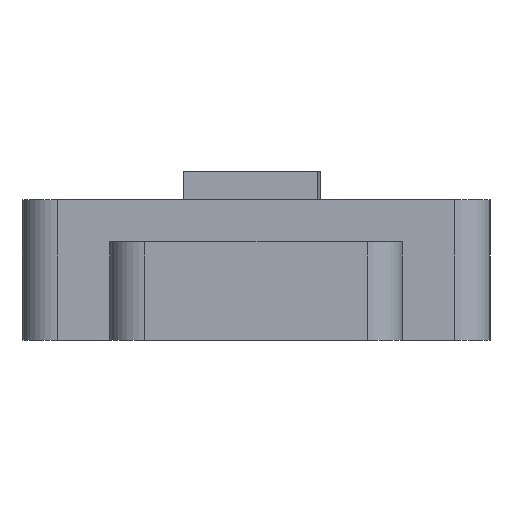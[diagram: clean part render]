
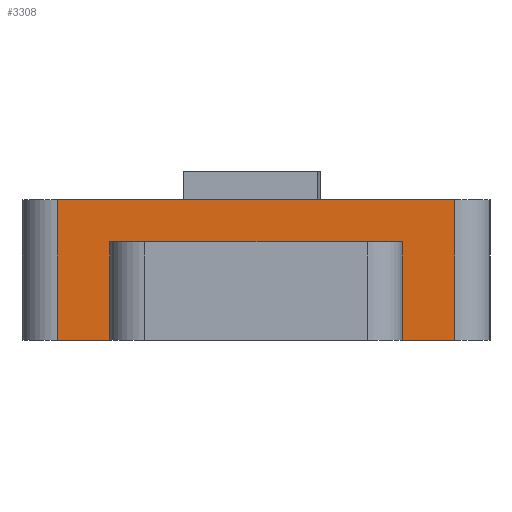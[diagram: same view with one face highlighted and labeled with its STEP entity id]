
A CAD part, left-side view. The second image highlights one B-rep face of the part: STEP entity #3308.
In plain terms, the highlighted planar face has unit normal (-1, 0, 0).
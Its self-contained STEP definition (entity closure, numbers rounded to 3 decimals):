
#62 = PLANE('',#63);
#63 = AXIS2_PLACEMENT_3D('',#64,#65,#66);
#64 = CARTESIAN_POINT('',(0.,0.,0.));
#65 = DIRECTION('',(0.,0.,1.));
#66 = DIRECTION('',(1.,0.,-0.));
#90 = CYLINDRICAL_SURFACE('',#91,0.6);
#91 = AXIS2_PLACEMENT_3D('',#92,#93,#94);
#92 = CARTESIAN_POINT('',(-14.25,-3.4,0.));
#93 = DIRECTION('',(0.,0.,1.));
#94 = DIRECTION('',(0.,-1.,0.));
#118 = PLANE('',#119);
#119 = AXIS2_PLACEMENT_3D('',#120,#121,#122);
#120 = CARTESIAN_POINT('',(0.,0.,2.4));
#121 = DIRECTION('',(0.,0.,1.));
#122 = DIRECTION('',(1.,0.,-0.));
#160 = VERTEX_POINT('',#161);
#161 = CARTESIAN_POINT('',(-14.85,-3.4,0.));
#463 = VERTEX_POINT('',#464);
#464 = CARTESIAN_POINT('',(-14.85,3.4,0.));
#479 = CYLINDRICAL_SURFACE('',#480,0.6);
#480 = AXIS2_PLACEMENT_3D('',#481,#482,#483);
#481 = CARTESIAN_POINT('',(-14.25,3.4,0.));
#482 = DIRECTION('',(0.,0.,1.));
#483 = DIRECTION('',(-0.,1.,0.));
#491 = EDGE_CURVE('',#463,#492,#494,.T.);
#492 = VERTEX_POINT('',#493);
#493 = CARTESIAN_POINT('',(-14.85,2.5,0.));
#494 = SURFACE_CURVE('',#495,(#499,#506),.PCURVE_S1.);
#495 = LINE('',#496,#497);
#496 = CARTESIAN_POINT('',(-14.85,4.,0.));
#497 = VECTOR('',#498,1.);
#498 = DIRECTION('',(0.,-1.,0.));
#499 = PCURVE('',#62,#500);
#500 = DEFINITIONAL_REPRESENTATION('',(#501),#505);
#501 = LINE('',#502,#503);
#502 = CARTESIAN_POINT('',(-14.85,4.));
#503 = VECTOR('',#504,1.);
#504 = DIRECTION('',(0.,-1.));
#505 = ( GEOMETRIC_REPRESENTATION_CONTEXT(2) 
PARAMETRIC_REPRESENTATION_CONTEXT() REPRESENTATION_CONTEXT('2D SPACE',''
  ) );
#506 = PCURVE('',#507,#512);
#507 = PLANE('',#508);
#508 = AXIS2_PLACEMENT_3D('',#509,#510,#511);
#509 = CARTESIAN_POINT('',(-14.85,4.,0.));
#510 = DIRECTION('',(1.,0.,-0.));
#511 = DIRECTION('',(0.,-1.,0.));
#512 = DEFINITIONAL_REPRESENTATION('',(#513),#517);
#513 = LINE('',#514,#515);
#514 = CARTESIAN_POINT('',(0.,0.));
#515 = VECTOR('',#516,1.);
#516 = DIRECTION('',(1.,0.));
#517 = ( GEOMETRIC_REPRESENTATION_CONTEXT(2) 
PARAMETRIC_REPRESENTATION_CONTEXT() REPRESENTATION_CONTEXT('2D SPACE',''
  ) );
#535 = PLANE('',#536);
#536 = AXIS2_PLACEMENT_3D('',#537,#538,#539);
#537 = CARTESIAN_POINT('',(-13.85,2.5,0.));
#538 = DIRECTION('',(0.,-1.,0.));
#539 = DIRECTION('',(-1.,0.,0.));
#638 = VERTEX_POINT('',#639);
#639 = CARTESIAN_POINT('',(-14.85,-2.5,0.));
#653 = PLANE('',#654);
#654 = AXIS2_PLACEMENT_3D('',#655,#656,#657);
#655 = CARTESIAN_POINT('',(-17.25,-2.5,0.));
#656 = DIRECTION('',(0.,1.,0.));
#657 = DIRECTION('',(1.,0.,0.));
#665 = EDGE_CURVE('',#638,#160,#666,.T.);
#666 = SURFACE_CURVE('',#667,(#671,#678),.PCURVE_S1.);
#667 = LINE('',#668,#669);
#668 = CARTESIAN_POINT('',(-14.85,4.,0.));
#669 = VECTOR('',#670,1.);
#670 = DIRECTION('',(0.,-1.,0.));
#671 = PCURVE('',#62,#672);
#672 = DEFINITIONAL_REPRESENTATION('',(#673),#677);
#673 = LINE('',#674,#675);
#674 = CARTESIAN_POINT('',(-14.85,4.));
#675 = VECTOR('',#676,1.);
#676 = DIRECTION('',(0.,-1.));
#677 = ( GEOMETRIC_REPRESENTATION_CONTEXT(2) 
PARAMETRIC_REPRESENTATION_CONTEXT() REPRESENTATION_CONTEXT('2D SPACE',''
  ) );
#678 = PCURVE('',#507,#679);
#679 = DEFINITIONAL_REPRESENTATION('',(#680),#684);
#680 = LINE('',#681,#682);
#681 = CARTESIAN_POINT('',(0.,0.));
#682 = VECTOR('',#683,1.);
#683 = DIRECTION('',(1.,0.));
#684 = ( GEOMETRIC_REPRESENTATION_CONTEXT(2) 
PARAMETRIC_REPRESENTATION_CONTEXT() REPRESENTATION_CONTEXT('2D SPACE',''
  ) );
#690 = EDGE_CURVE('',#160,#691,#693,.T.);
#691 = VERTEX_POINT('',#692);
#692 = CARTESIAN_POINT('',(-14.85,-3.4,2.4));
#693 = SURFACE_CURVE('',#694,(#698,#705),.PCURVE_S1.);
#694 = LINE('',#695,#696);
#695 = CARTESIAN_POINT('',(-14.85,-3.4,0.));
#696 = VECTOR('',#697,1.);
#697 = DIRECTION('',(0.,0.,1.));
#698 = PCURVE('',#90,#699);
#699 = DEFINITIONAL_REPRESENTATION('',(#700),#704);
#700 = LINE('',#701,#702);
#701 = CARTESIAN_POINT('',(-1.571,0.));
#702 = VECTOR('',#703,1.);
#703 = DIRECTION('',(-0.,1.));
#704 = ( GEOMETRIC_REPRESENTATION_CONTEXT(2) 
PARAMETRIC_REPRESENTATION_CONTEXT() REPRESENTATION_CONTEXT('2D SPACE',''
  ) );
#705 = PCURVE('',#507,#706);
#706 = DEFINITIONAL_REPRESENTATION('',(#707),#711);
#707 = LINE('',#708,#709);
#708 = CARTESIAN_POINT('',(7.4,0.));
#709 = VECTOR('',#710,1.);
#710 = DIRECTION('',(0.,-1.));
#711 = ( GEOMETRIC_REPRESENTATION_CONTEXT(2) 
PARAMETRIC_REPRESENTATION_CONTEXT() REPRESENTATION_CONTEXT('2D SPACE',''
  ) );
#866 = VERTEX_POINT('',#867);
#867 = CARTESIAN_POINT('',(-14.85,3.4,2.4));
#889 = EDGE_CURVE('',#866,#691,#890,.T.);
#890 = SURFACE_CURVE('',#891,(#895,#902),.PCURVE_S1.);
#891 = LINE('',#892,#893);
#892 = CARTESIAN_POINT('',(-14.85,4.,2.4));
#893 = VECTOR('',#894,1.);
#894 = DIRECTION('',(0.,-1.,0.));
#895 = PCURVE('',#118,#896);
#896 = DEFINITIONAL_REPRESENTATION('',(#897),#901);
#897 = LINE('',#898,#899);
#898 = CARTESIAN_POINT('',(-14.85,4.));
#899 = VECTOR('',#900,1.);
#900 = DIRECTION('',(0.,-1.));
#901 = ( GEOMETRIC_REPRESENTATION_CONTEXT(2) 
PARAMETRIC_REPRESENTATION_CONTEXT() REPRESENTATION_CONTEXT('2D SPACE',''
  ) );
#902 = PCURVE('',#507,#903);
#903 = DEFINITIONAL_REPRESENTATION('',(#904),#908);
#904 = LINE('',#905,#906);
#905 = CARTESIAN_POINT('',(0.,-2.4));
#906 = VECTOR('',#907,1.);
#907 = DIRECTION('',(1.,0.));
#908 = ( GEOMETRIC_REPRESENTATION_CONTEXT(2) 
PARAMETRIC_REPRESENTATION_CONTEXT() REPRESENTATION_CONTEXT('2D SPACE',''
  ) );
#3308 = ADVANCED_FACE('',(#3309),#507,.F.);
#3309 = FACE_BOUND('',#3310,.F.);
#3310 = EDGE_LOOP('',(#3311,#3312,#3333,#3334,#3335,#3336,#3357,#3383));
#3311 = ORIENTED_EDGE('',*,*,#491,.F.);
#3312 = ORIENTED_EDGE('',*,*,#3313,.T.);
#3313 = EDGE_CURVE('',#463,#866,#3314,.T.);
#3314 = SURFACE_CURVE('',#3315,(#3319,#3326),.PCURVE_S1.);
#3315 = LINE('',#3316,#3317);
#3316 = CARTESIAN_POINT('',(-14.85,3.4,0.));
#3317 = VECTOR('',#3318,1.);
#3318 = DIRECTION('',(0.,0.,1.));
#3319 = PCURVE('',#507,#3320);
#3320 = DEFINITIONAL_REPRESENTATION('',(#3321),#3325);
#3321 = LINE('',#3322,#3323);
#3322 = CARTESIAN_POINT('',(0.6,0.));
#3323 = VECTOR('',#3324,1.);
#3324 = DIRECTION('',(0.,-1.));
#3325 = ( GEOMETRIC_REPRESENTATION_CONTEXT(2) 
PARAMETRIC_REPRESENTATION_CONTEXT() REPRESENTATION_CONTEXT('2D SPACE',''
  ) );
#3326 = PCURVE('',#479,#3327);
#3327 = DEFINITIONAL_REPRESENTATION('',(#3328),#3332);
#3328 = LINE('',#3329,#3330);
#3329 = CARTESIAN_POINT('',(1.571,0.));
#3330 = VECTOR('',#3331,1.);
#3331 = DIRECTION('',(0.,1.));
#3332 = ( GEOMETRIC_REPRESENTATION_CONTEXT(2) 
PARAMETRIC_REPRESENTATION_CONTEXT() REPRESENTATION_CONTEXT('2D SPACE',''
  ) );
#3333 = ORIENTED_EDGE('',*,*,#889,.T.);
#3334 = ORIENTED_EDGE('',*,*,#690,.F.);
#3335 = ORIENTED_EDGE('',*,*,#665,.F.);
#3336 = ORIENTED_EDGE('',*,*,#3337,.T.);
#3337 = EDGE_CURVE('',#638,#3338,#3340,.T.);
#3338 = VERTEX_POINT('',#3339);
#3339 = CARTESIAN_POINT('',(-14.85,-2.5,1.68));
#3340 = SURFACE_CURVE('',#3341,(#3345,#3351),.PCURVE_S1.);
#3341 = LINE('',#3342,#3343);
#3342 = CARTESIAN_POINT('',(-14.85,-2.5,0.));
#3343 = VECTOR('',#3344,1.);
#3344 = DIRECTION('',(0.,-0.,1.));
#3345 = PCURVE('',#507,#3346);
#3346 = DEFINITIONAL_REPRESENTATION('',(#3347),#3350);
#3347 = B_SPLINE_CURVE_WITH_KNOTS('',1,(#3348,#3349),.UNSPECIFIED.,.F.,
  .F.,(2,2),(0.,1.68),.PIECEWISE_BEZIER_KNOTS.);
#3348 = CARTESIAN_POINT('',(6.5,0.));
#3349 = CARTESIAN_POINT('',(6.5,-1.68));
#3350 = ( GEOMETRIC_REPRESENTATION_CONTEXT(2) 
PARAMETRIC_REPRESENTATION_CONTEXT() REPRESENTATION_CONTEXT('2D SPACE',''
  ) );
#3351 = PCURVE('',#653,#3352);
#3352 = DEFINITIONAL_REPRESENTATION('',(#3353),#3356);
#3353 = B_SPLINE_CURVE_WITH_KNOTS('',1,(#3354,#3355),.UNSPECIFIED.,.F.,
  .F.,(2,2),(0.,1.68),.PIECEWISE_BEZIER_KNOTS.);
#3354 = CARTESIAN_POINT('',(2.4,0.));
#3355 = CARTESIAN_POINT('',(2.4,-1.68));
#3356 = ( GEOMETRIC_REPRESENTATION_CONTEXT(2) 
PARAMETRIC_REPRESENTATION_CONTEXT() REPRESENTATION_CONTEXT('2D SPACE',''
  ) );
#3357 = ORIENTED_EDGE('',*,*,#3358,.F.);
#3358 = EDGE_CURVE('',#3359,#3338,#3361,.T.);
#3359 = VERTEX_POINT('',#3360);
#3360 = CARTESIAN_POINT('',(-14.85,2.5,1.68));
#3361 = SURFACE_CURVE('',#3362,(#3366,#3372),.PCURVE_S1.);
#3362 = LINE('',#3363,#3364);
#3363 = CARTESIAN_POINT('',(-14.85,2.,1.68));
#3364 = VECTOR('',#3365,1.);
#3365 = DIRECTION('',(0.,-1.,0.));
#3366 = PCURVE('',#507,#3367);
#3367 = DEFINITIONAL_REPRESENTATION('',(#3368),#3371);
#3368 = B_SPLINE_CURVE_WITH_KNOTS('',1,(#3369,#3370),.UNSPECIFIED.,.F.,
  .F.,(2,2),(-0.5,4.5),.PIECEWISE_BEZIER_KNOTS.);
#3369 = CARTESIAN_POINT('',(1.5,-1.68));
#3370 = CARTESIAN_POINT('',(6.5,-1.68));
#3371 = ( GEOMETRIC_REPRESENTATION_CONTEXT(2) 
PARAMETRIC_REPRESENTATION_CONTEXT() REPRESENTATION_CONTEXT('2D SPACE',''
  ) );
#3372 = PCURVE('',#3373,#3378);
#3373 = PLANE('',#3374);
#3374 = AXIS2_PLACEMENT_3D('',#3375,#3376,#3377);
#3375 = CARTESIAN_POINT('',(-15.55,0.,1.68));
#3376 = DIRECTION('',(0.,0.,1.));
#3377 = DIRECTION('',(1.,0.,-0.));
#3378 = DEFINITIONAL_REPRESENTATION('',(#3379),#3382);
#3379 = B_SPLINE_CURVE_WITH_KNOTS('',1,(#3380,#3381),.UNSPECIFIED.,.F.,
  .F.,(2,2),(-0.5,4.5),.PIECEWISE_BEZIER_KNOTS.);
#3380 = CARTESIAN_POINT('',(0.7,2.5));
#3381 = CARTESIAN_POINT('',(0.7,-2.5));
#3382 = ( GEOMETRIC_REPRESENTATION_CONTEXT(2) 
PARAMETRIC_REPRESENTATION_CONTEXT() REPRESENTATION_CONTEXT('2D SPACE',''
  ) );
#3383 = ORIENTED_EDGE('',*,*,#3384,.T.);
#3384 = EDGE_CURVE('',#3359,#492,#3385,.T.);
#3385 = SURFACE_CURVE('',#3386,(#3390,#3396),.PCURVE_S1.);
#3386 = LINE('',#3387,#3388);
#3387 = CARTESIAN_POINT('',(-14.85,2.5,0.));
#3388 = VECTOR('',#3389,1.);
#3389 = DIRECTION('',(0.,-0.,-1.));
#3390 = PCURVE('',#507,#3391);
#3391 = DEFINITIONAL_REPRESENTATION('',(#3392),#3395);
#3392 = B_SPLINE_CURVE_WITH_KNOTS('',1,(#3393,#3394),.UNSPECIFIED.,.F.,
  .F.,(2,2),(-1.68,0.),.PIECEWISE_BEZIER_KNOTS.);
#3393 = CARTESIAN_POINT('',(1.5,-1.68));
#3394 = CARTESIAN_POINT('',(1.5,0.));
#3395 = ( GEOMETRIC_REPRESENTATION_CONTEXT(2) 
PARAMETRIC_REPRESENTATION_CONTEXT() REPRESENTATION_CONTEXT('2D SPACE',''
  ) );
#3396 = PCURVE('',#535,#3397);
#3397 = DEFINITIONAL_REPRESENTATION('',(#3398),#3401);
#3398 = B_SPLINE_CURVE_WITH_KNOTS('',1,(#3399,#3400),.UNSPECIFIED.,.F.,
  .F.,(2,2),(-1.68,0.),.PIECEWISE_BEZIER_KNOTS.);
#3399 = CARTESIAN_POINT('',(1.,-1.68));
#3400 = CARTESIAN_POINT('',(1.,0.));
#3401 = ( GEOMETRIC_REPRESENTATION_CONTEXT(2) 
PARAMETRIC_REPRESENTATION_CONTEXT() REPRESENTATION_CONTEXT('2D SPACE',''
  ) );
